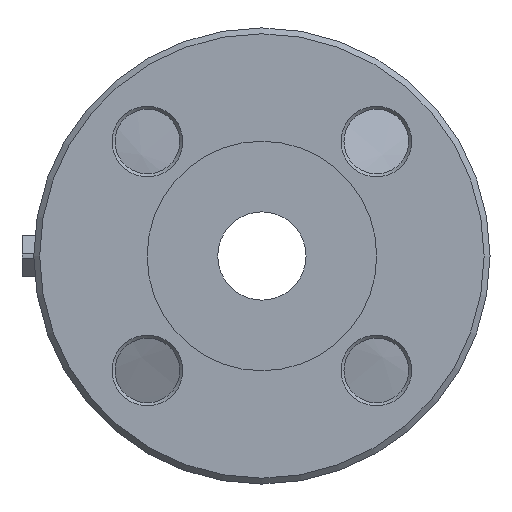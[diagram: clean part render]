
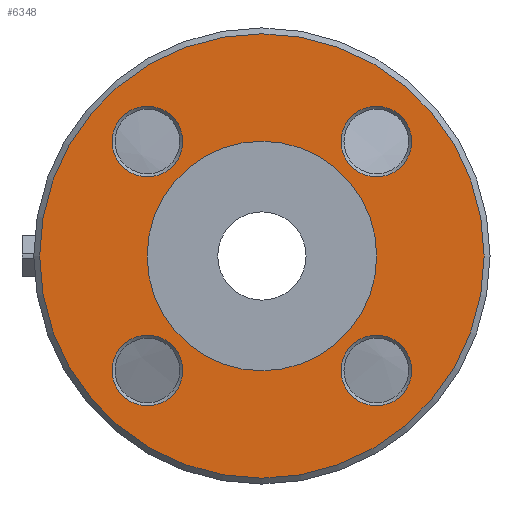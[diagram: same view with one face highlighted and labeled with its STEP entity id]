
A CAD part, left-side view. The second image highlights one B-rep face of the part: STEP entity #6348.
In plain terms, the highlighted planar face has unit normal (-1, 0, 0).
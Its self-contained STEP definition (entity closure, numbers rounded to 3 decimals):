
#6273=CARTESIAN_POINT('',(-80.5,-75.5,0.));
#6274=VERTEX_POINT('',#6273);
#6275=CARTESIAN_POINT('',(-80.5,0.0,0.0));
#6276=DIRECTION('',(1.0,0.0,0.0));
#6277=DIRECTION('',(0.0,1.0,0.0));
#6278=AXIS2_PLACEMENT_3D('',#6275,#6276,#6277);
#6279=CIRCLE('',#6278,75.5);
#6280=EDGE_CURVE('',#6274,#6274,#6279,.T.);
#6285=CARTESIAN_POINT('',(-80.5,-58.25,0.0));
#6286=DIRECTION('',(-1.0,0.0,0.0));
#6287=DIRECTION('',(0.0,0.0,1.0));
#6288=AXIS2_PLACEMENT_3D('',#6285,#6286,#6287);
#6289=PLANE('',#6288);
#6290=ORIENTED_EDGE('',*,*,#6280,.F.);
#6291=EDGE_LOOP('',(#6290));
#6292=FACE_OUTER_BOUND('',#6291,.T.);
#6293=CARTESIAN_POINT('',(-80.5,50.891,38.891));
#6294=VERTEX_POINT('',#6293);
#6295=CARTESIAN_POINT('',(-80.5,38.891,38.891));
#6296=DIRECTION('',(-1.0,0.0,0.0));
#6297=DIRECTION('',(0.0,-1.0,0.0));
#6298=AXIS2_PLACEMENT_3D('',#6295,#6296,#6297);
#6299=CIRCLE('',#6298,12.);
#6300=EDGE_CURVE('',#6294,#6294,#6299,.T.);
#6301=ORIENTED_EDGE('',*,*,#6300,.F.);
#6302=EDGE_LOOP('',(#6301));
#6303=FACE_BOUND('',#6302,.T.);
#6304=CARTESIAN_POINT('',(-80.5,-50.891,-38.891));
#6305=VERTEX_POINT('',#6304);
#6306=CARTESIAN_POINT('',(-80.5,-38.891,-38.891));
#6307=DIRECTION('',(-1.0,0.0,0.0));
#6308=DIRECTION('',(0.0,1.0,0.0));
#6309=AXIS2_PLACEMENT_3D('',#6306,#6307,#6308);
#6310=CIRCLE('',#6309,12.);
#6311=EDGE_CURVE('',#6305,#6305,#6310,.T.);
#6312=ORIENTED_EDGE('',*,*,#6311,.F.);
#6313=EDGE_LOOP('',(#6312));
#6314=FACE_BOUND('',#6313,.T.);
#6315=CARTESIAN_POINT('',(-80.5,-39.0,0.0));
#6316=VERTEX_POINT('',#6315);
#6317=CARTESIAN_POINT('',(-80.5,0.0,0.0));
#6318=DIRECTION('',(-1.0,0.0,0.0));
#6319=DIRECTION('',(0.0,-1.0,0.0));
#6320=AXIS2_PLACEMENT_3D('',#6317,#6318,#6319);
#6321=CIRCLE('',#6320,39.0);
#6322=EDGE_CURVE('',#6316,#6316,#6321,.T.);
#6323=ORIENTED_EDGE('',*,*,#6322,.F.);
#6324=EDGE_LOOP('',(#6323));
#6325=FACE_BOUND('',#6324,.T.);
#6326=CARTESIAN_POINT('',(-80.5,38.891,-50.891));
#6327=VERTEX_POINT('',#6326);
#6328=CARTESIAN_POINT('',(-80.5,38.891,-38.891));
#6329=DIRECTION('',(-1.0,0.0,0.0));
#6330=DIRECTION('',(0.0,0.0,1.0));
#6331=AXIS2_PLACEMENT_3D('',#6328,#6329,#6330);
#6332=CIRCLE('',#6331,12.);
#6333=EDGE_CURVE('',#6327,#6327,#6332,.T.);
#6334=ORIENTED_EDGE('',*,*,#6333,.F.);
#6335=EDGE_LOOP('',(#6334));
#6336=FACE_BOUND('',#6335,.T.);
#6337=CARTESIAN_POINT('',(-80.5,-38.891,50.891));
#6338=VERTEX_POINT('',#6337);
#6339=CARTESIAN_POINT('',(-80.5,-38.891,38.891));
#6340=DIRECTION('',(-1.0,0.0,0.0));
#6341=DIRECTION('',(0.0,0.0,-1.0));
#6342=AXIS2_PLACEMENT_3D('',#6339,#6340,#6341);
#6343=CIRCLE('',#6342,12.);
#6344=EDGE_CURVE('',#6338,#6338,#6343,.T.);
#6345=ORIENTED_EDGE('',*,*,#6344,.F.);
#6346=EDGE_LOOP('',(#6345));
#6347=FACE_BOUND('',#6346,.T.);
#6348=ADVANCED_FACE('',(#6292,#6303,#6314,#6325,#6336,#6347),#6289,.T.);
